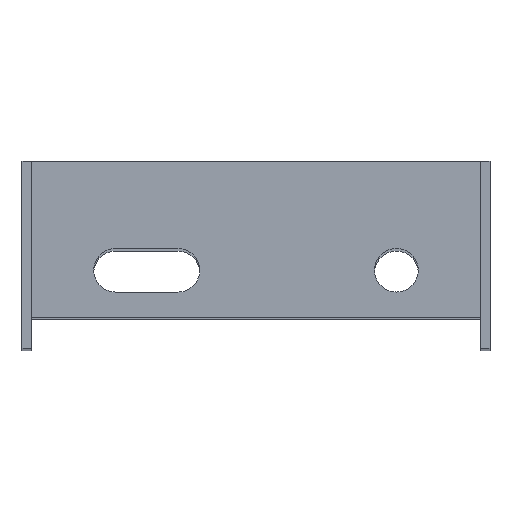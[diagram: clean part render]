
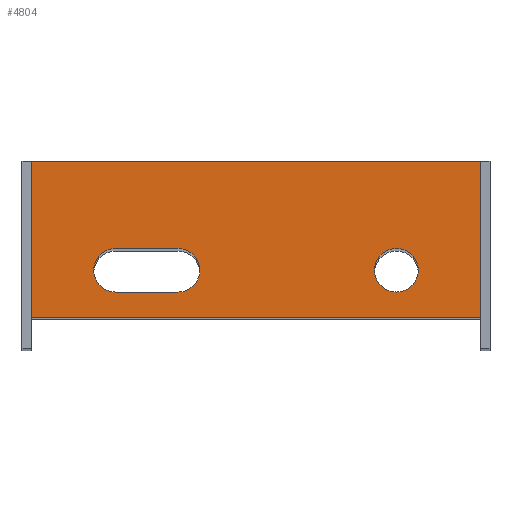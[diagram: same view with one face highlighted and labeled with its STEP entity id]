
A CAD part, top view. The second image highlights one B-rep face of the part: STEP entity #4804.
In plain terms, the highlighted planar face has unit normal (0, 0, 1).
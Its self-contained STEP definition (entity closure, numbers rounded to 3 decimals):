
#874 = DIRECTION ( 'NONE',  ( 0., 0., -1. ) ) ;
#1795 = CARTESIAN_POINT ( 'NONE',  ( 47., 15., 0. ) ) ;
#2079 = CARTESIAN_POINT ( 'NONE',  ( 47., 8., 0. ) ) ;
#2636 = ORIENTED_EDGE ( 'NONE', *, *, #16642, .F. ) ;
#2877 = ORIENTED_EDGE ( 'NONE', *, *, #16265, .T. ) ;
#3416 = VECTOR ( 'NONE', #8493, 1000. ) ;
#3475 = VERTEX_POINT ( 'NONE', #13878 ) ;
#4007 = DIRECTION ( 'NONE',  ( -1., 0., 0. ) ) ;
#4583 = DIRECTION ( 'NONE',  ( 1., 0., 0. ) ) ;
#4804 = ADVANCED_FACE ( 'NONE', ( #20145, #12667, #5271 ), #34400, .F. ) ;
#5271 = FACE_OUTER_BOUND ( 'NONE', #18197, .T. ) ;
#5517 = CIRCLE ( 'NONE', #36259, 7. ) ;
#5539 = VERTEX_POINT ( 'NONE', #9584 ) ;
#5654 = CIRCLE ( 'NONE', #16910, 7. ) ;
#5835 = VERTEX_POINT ( 'NONE', #36161 ) ;
#7390 = VECTOR ( 'NONE', #29993, 1000. ) ;
#7427 = DIRECTION ( 'NONE',  ( 0., -1., 0. ) ) ;
#7573 = EDGE_LOOP ( 'NONE', ( #2636, #25743, #23101, #17882 ) ) ;
#8493 = DIRECTION ( 'NONE',  ( -1., 0., 0. ) ) ;
#8592 = EDGE_CURVE ( 'NONE', #3475, #5539, #16304, .T. ) ;
#9584 = CARTESIAN_POINT ( 'NONE',  ( 27., 8., 0. ) ) ;
#9991 = LINE ( 'NONE', #15108, #23187 ) ;
#10092 = EDGE_CURVE ( 'NONE', #34687, #34921, #24141, .T. ) ;
#11223 = CARTESIAN_POINT ( 'NONE',  ( 0., 50., 0. ) ) ;
#11400 = DIRECTION ( 'NONE',  ( 0., 0., 1. ) ) ;
#12362 = LINE ( 'NONE', #15849, #18968 ) ;
#12667 = FACE_BOUND ( 'NONE', #15555, .T. ) ;
#12734 = ORIENTED_EDGE ( 'NONE', *, *, #13440, .T. ) ;
#13440 = EDGE_CURVE ( 'NONE', #5835, #34687, #34419, .T. ) ;
#13878 = CARTESIAN_POINT ( 'NONE',  ( 27., 22., 0. ) ) ;
#14250 = DIRECTION ( 'NONE',  ( 0., 0., 1. ) ) ;
#15108 = CARTESIAN_POINT ( 'NONE',  ( 0., 50., 0. ) ) ;
#15480 = CARTESIAN_POINT ( 'NONE',  ( 144., 0., 0. ) ) ;
#15555 = EDGE_LOOP ( 'NONE', ( #28933 ) ) ;
#15719 = VERTEX_POINT ( 'NONE', #21191 ) ;
#15849 = CARTESIAN_POINT ( 'NONE',  ( 0., 0., 0. ) ) ;
#16265 = EDGE_CURVE ( 'NONE', #34921, #18597, #9991, .T. ) ;
#16304 = CIRCLE ( 'NONE', #17172, 7. ) ;
#16326 = CARTESIAN_POINT ( 'NONE',  ( 0., 0., 0. ) ) ;
#16642 = EDGE_CURVE ( 'NONE', #15719, #3475, #26653, .T. ) ;
#16910 = AXIS2_PLACEMENT_3D ( 'NONE', #31075, #14250, #33901 ) ;
#17172 = AXIS2_PLACEMENT_3D ( 'NONE', #28232, #11400, #31051 ) ;
#17517 = ORIENTED_EDGE ( 'NONE', *, *, #23875, .T. ) ;
#17882 = ORIENTED_EDGE ( 'NONE', *, *, #8592, .F. ) ;
#18197 = EDGE_LOOP ( 'NONE', ( #17517, #12734, #28317, #2877 ) ) ;
#18597 = VERTEX_POINT ( 'NONE', #11223 ) ;
#18653 = CARTESIAN_POINT ( 'NONE',  ( 47., 8., 0. ) ) ;
#18968 = VECTOR ( 'NONE', #7427, 1000. ) ;
#19435 = VERTEX_POINT ( 'NONE', #24250 ) ;
#19922 = AXIS2_PLACEMENT_3D ( 'NONE', #28785, #874, #20429 ) ;
#20145 = FACE_BOUND ( 'NONE', #7573, .T. ) ;
#20429 = DIRECTION ( 'NONE',  ( -1., 0., 0. ) ) ;
#20582 = CARTESIAN_POINT ( 'NONE',  ( 144., 0., 0. ) ) ;
#21191 = CARTESIAN_POINT ( 'NONE',  ( 47., 22., 0. ) ) ;
#21377 = DIRECTION ( 'NONE',  ( 0., 0., 1. ) ) ;
#22385 = EDGE_CURVE ( 'NONE', #29049, #15719, #5517, .T. ) ;
#23101 = ORIENTED_EDGE ( 'NONE', *, *, #33691, .F. ) ;
#23187 = VECTOR ( 'NONE', #4007, 1000. ) ;
#23875 = EDGE_CURVE ( 'NONE', #18597, #5835, #12362, .T. ) ;
#24141 = LINE ( 'NONE', #15480, #29820 ) ;
#24250 = CARTESIAN_POINT ( 'NONE',  ( 124., 15., 0. ) ) ;
#24526 = CARTESIAN_POINT ( 'NONE',  ( 144., 50., 0. ) ) ;
#25743 = ORIENTED_EDGE ( 'NONE', *, *, #22385, .F. ) ;
#26653 = LINE ( 'NONE', #33634, #3416 ) ;
#26972 = VECTOR ( 'NONE', #30465, 1000. ) ;
#28232 = CARTESIAN_POINT ( 'NONE',  ( 27., 15., 0. ) ) ;
#28317 = ORIENTED_EDGE ( 'NONE', *, *, #10092, .T. ) ;
#28785 = CARTESIAN_POINT ( 'NONE',  ( 0., 0., 0. ) ) ;
#28933 = ORIENTED_EDGE ( 'NONE', *, *, #29774, .F. ) ;
#29049 = VERTEX_POINT ( 'NONE', #2079 ) ;
#29769 = LINE ( 'NONE', #18653, #7390 ) ;
#29774 = EDGE_CURVE ( 'NONE', #19435, #19435, #5654, .T. ) ;
#29820 = VECTOR ( 'NONE', #32328, 1000. ) ;
#29993 = DIRECTION ( 'NONE',  ( 1., 0., 0. ) ) ;
#30465 = DIRECTION ( 'NONE',  ( 1., 0., 0. ) ) ;
#31051 = DIRECTION ( 'NONE',  ( 1., 0., 0. ) ) ;
#31075 = CARTESIAN_POINT ( 'NONE',  ( 117., 15., 0. ) ) ;
#32328 = DIRECTION ( 'NONE',  ( 0., 1., 0. ) ) ;
#33634 = CARTESIAN_POINT ( 'NONE',  ( 47., 22., 0. ) ) ;
#33691 = EDGE_CURVE ( 'NONE', #5539, #29049, #29769, .T. ) ;
#33901 = DIRECTION ( 'NONE',  ( 1., 0., 0. ) ) ;
#34400 = PLANE ( 'NONE',  #19922 ) ;
#34419 = LINE ( 'NONE', #16326, #26972 ) ;
#34687 = VERTEX_POINT ( 'NONE', #20582 ) ;
#34921 = VERTEX_POINT ( 'NONE', #24526 ) ;
#36161 = CARTESIAN_POINT ( 'NONE',  ( 0., 0., 0. ) ) ;
#36259 = AXIS2_PLACEMENT_3D ( 'NONE', #1795, #21377, #4583 ) ;
